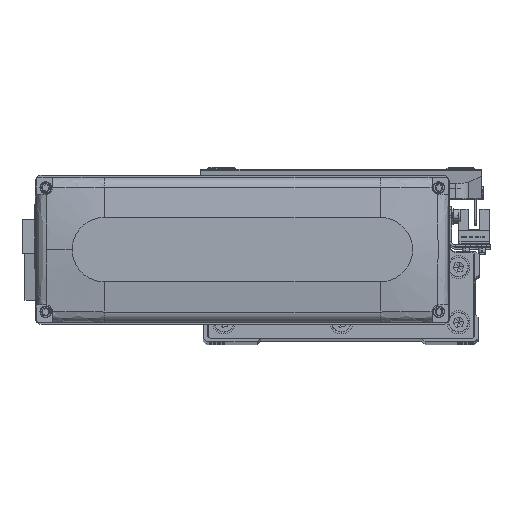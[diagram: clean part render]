
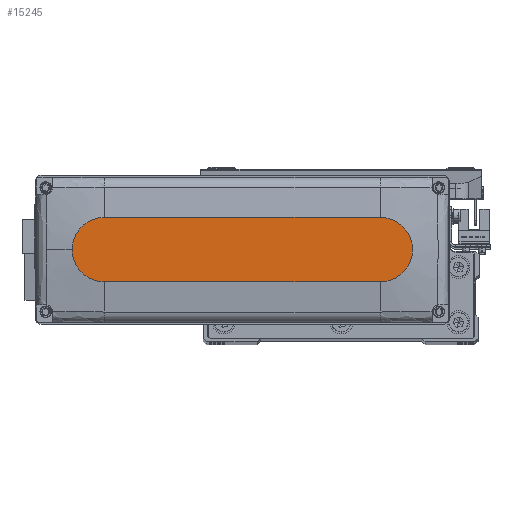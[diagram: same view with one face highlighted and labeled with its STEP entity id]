
A CAD part, top view. The second image highlights one B-rep face of the part: STEP entity #15245.
In plain terms, the highlighted planar face has unit normal (0, 0, 1).
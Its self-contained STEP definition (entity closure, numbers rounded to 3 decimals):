
#2394 = LINE ( 'NONE', #16459, #16627 ) ;
#3443 = PLANE ( 'NONE',  #20351 ) ;
#4709 = ORIENTED_EDGE ( 'NONE', *, *, #18142, .T. ) ;
#6419 = ORIENTED_EDGE ( 'NONE', *, *, #36927, .T. ) ;
#7523 = DIRECTION ( 'NONE',  ( 0., 0., 1. ) ) ;
#8615 = CARTESIAN_POINT ( 'NONE',  ( -60., -14., 28.5 ) ) ;
#9217 = ORIENTED_EDGE ( 'NONE', *, *, #31354, .T. ) ;
#9427 = CARTESIAN_POINT ( 'NONE',  ( -60., 14., 28.5 ) ) ;
#10253 = EDGE_CURVE ( 'NONE', #25882, #24001, #17454, .T. ) ;
#11109 = CARTESIAN_POINT ( 'NONE',  ( 74., 0., 28.5 ) ) ;
#11512 = CARTESIAN_POINT ( 'NONE',  ( 60., -14., 28.5 ) ) ;
#12492 = DIRECTION ( 'NONE',  ( 0., 0., 1. ) ) ;
#12863 = CARTESIAN_POINT ( 'NONE',  ( -60., 0., 28.5 ) ) ;
#13256 = AXIS2_PLACEMENT_3D ( 'NONE', #12863, #26825, #40671 ) ;
#14439 = CIRCLE ( 'NONE', #39892, 14. ) ;
#14628 = CARTESIAN_POINT ( 'NONE',  ( 60., 14., 28.5 ) ) ;
#14728 = DIRECTION ( 'NONE',  ( 1., 0., 0. ) ) ;
#15245 = ADVANCED_FACE ( 'NONE', ( #34795 ), #3443, .T. ) ;
#16459 = CARTESIAN_POINT ( 'NONE',  ( -60., -14., 28.5 ) ) ;
#16627 = VECTOR ( 'NONE', #30362, 1000. ) ;
#17454 = CIRCLE ( 'NONE', #42862, 14. ) ;
#17518 = CARTESIAN_POINT ( 'NONE',  ( 0., 0., 28.5 ) ) ;
#17841 = ORIENTED_EDGE ( 'NONE', *, *, #10253, .T. ) ;
#18142 = EDGE_CURVE ( 'NONE', #24001, #25450, #14439, .T. ) ;
#20351 = AXIS2_PLACEMENT_3D ( 'NONE', #17518, #31398, #14728 ) ;
#21539 = DIRECTION ( 'NONE',  ( 1., 0., 0. ) ) ;
#23131 = VERTEX_POINT ( 'NONE', #42693 ) ;
#23195 = ORIENTED_EDGE ( 'NONE', *, *, #41160, .T. ) ;
#23428 = DIRECTION ( 'NONE',  ( -1., 0., 0. ) ) ;
#23655 = VERTEX_POINT ( 'NONE', #8615 ) ;
#24001 = VERTEX_POINT ( 'NONE', #11109 ) ;
#25450 = VERTEX_POINT ( 'NONE', #14628 ) ;
#25882 = VERTEX_POINT ( 'NONE', #11512 ) ;
#26460 = DIRECTION ( 'NONE',  ( 1., 0., 0. ) ) ;
#26825 = DIRECTION ( 'NONE',  ( 0., 0., 1. ) ) ;
#28367 = VECTOR ( 'NONE', #23428, 1000. ) ;
#30362 = DIRECTION ( 'NONE',  ( 1., 0., 0. ) ) ;
#31354 = EDGE_CURVE ( 'NONE', #23655, #25882, #2394, .T. ) ;
#31398 = DIRECTION ( 'NONE',  ( 0., 0., 1. ) ) ;
#32940 = CIRCLE ( 'NONE', #13256, 14. ) ;
#34795 = FACE_OUTER_BOUND ( 'NONE', #43230, .T. ) ;
#36927 = EDGE_CURVE ( 'NONE', #25450, #23131, #40670, .T. ) ;
#38798 = CARTESIAN_POINT ( 'NONE',  ( 60., 0., 28.5 ) ) ;
#39892 = AXIS2_PLACEMENT_3D ( 'NONE', #38798, #7523, #21539 ) ;
#40670 = LINE ( 'NONE', #9427, #28367 ) ;
#40671 = DIRECTION ( 'NONE',  ( 1., 0., 0. ) ) ;
#41160 = EDGE_CURVE ( 'NONE', #23131, #23655, #32940, .T. ) ;
#42693 = CARTESIAN_POINT ( 'NONE',  ( -60., 14., 28.5 ) ) ;
#42862 = AXIS2_PLACEMENT_3D ( 'NONE', #43688, #12492, #26460 ) ;
#43230 = EDGE_LOOP ( 'NONE', ( #6419, #23195, #9217, #17841, #4709 ) ) ;
#43688 = CARTESIAN_POINT ( 'NONE',  ( 60., 0., 28.5 ) ) ;
